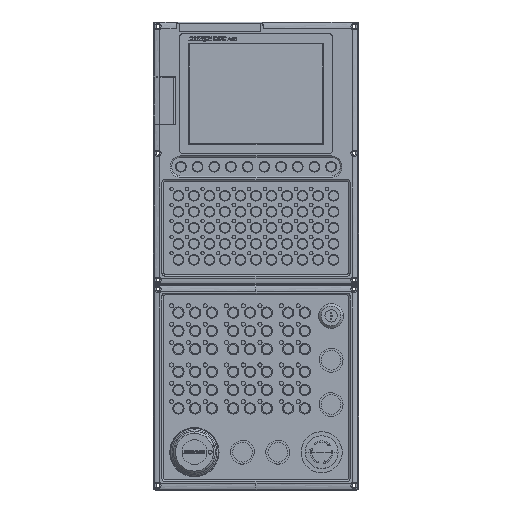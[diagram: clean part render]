
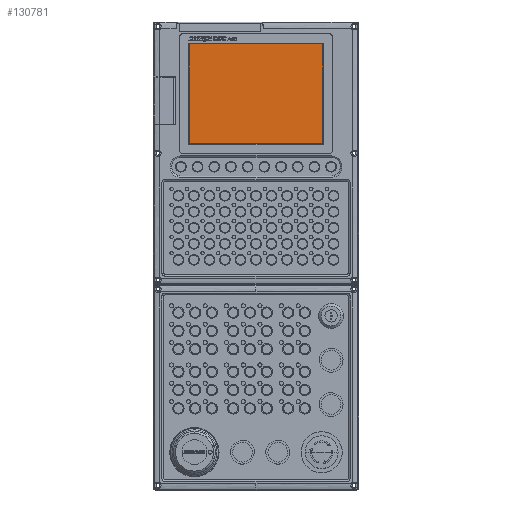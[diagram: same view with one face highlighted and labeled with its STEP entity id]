
A CAD part, top view. The second image highlights one B-rep face of the part: STEP entity #130781.
In plain terms, the highlighted planar face has unit normal (0, 0, 1).
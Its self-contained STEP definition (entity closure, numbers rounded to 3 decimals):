
#593 = EDGE_CURVE ( 'NONE', #22056, #26999, #51359, .T. ) ;
#6538 = EDGE_CURVE ( 'NONE', #63214, #28858, #146128, .T. ) ;
#12358 = EDGE_CURVE ( 'NONE', #26999, #63214, #20871, .T. ) ;
#15731 = CARTESIAN_POINT ( 'NONE',  ( -27.784, 225.685, -0.18 ) ) ;
#20871 = LINE ( 'NONE', #108075, #75224 ) ;
#22056 = VERTEX_POINT ( 'NONE', #149017 ) ;
#23064 = DIRECTION ( 'NONE',  ( 0., -1., 0. ) ) ;
#26324 = VECTOR ( 'NONE', #108483, 1000. ) ;
#26999 = VERTEX_POINT ( 'NONE', #34753 ) ;
#28858 = VERTEX_POINT ( 'NONE', #110728 ) ;
#34753 = CARTESIAN_POINT ( 'NONE',  ( 134.216, 96.685, -0.18 ) ) ;
#39665 = EDGE_LOOP ( 'NONE', ( #60123, #48043, #76685, #42091 ) ) ;
#40782 = VECTOR ( 'NONE', #124208, 1000. ) ;
#42091 = ORIENTED_EDGE ( 'NONE', *, *, #63543, .F. ) ;
#43044 = CARTESIAN_POINT ( 'NONE',  ( -35.284, 218.185, -0.18 ) ) ;
#48043 = ORIENTED_EDGE ( 'NONE', *, *, #12358, .F. ) ;
#51359 = LINE ( 'NONE', #104123, #109454 ) ;
#58259 = PLANE ( 'NONE',  #134092 ) ;
#60123 = ORIENTED_EDGE ( 'NONE', *, *, #6538, .F. ) ;
#61853 = DIRECTION ( 'NONE',  ( -1., 0., 0. ) ) ;
#63214 = VERTEX_POINT ( 'NONE', #69070 ) ;
#63543 = EDGE_CURVE ( 'NONE', #28858, #22056, #71651, .T. ) ;
#69070 = CARTESIAN_POINT ( 'NONE',  ( -27.784, 96.685, -0.18 ) ) ;
#69965 = DIRECTION ( 'NONE',  ( 1., 0., 0. ) ) ;
#71651 = LINE ( 'NONE', #43044, #40782 ) ;
#75224 = VECTOR ( 'NONE', #61853, 1000. ) ;
#76685 = ORIENTED_EDGE ( 'NONE', *, *, #593, .F. ) ;
#100292 = FACE_OUTER_BOUND ( 'NONE', #39665, .T. ) ;
#104123 = CARTESIAN_POINT ( 'NONE',  ( 134.216, 225.685, -0.18 ) ) ;
#108075 = CARTESIAN_POINT ( 'NONE',  ( -35.284, 96.685, -0.18 ) ) ;
#108483 = DIRECTION ( 'NONE',  ( 0., 1., 0. ) ) ;
#109454 = VECTOR ( 'NONE', #23064, 1000. ) ;
#110728 = CARTESIAN_POINT ( 'NONE',  ( -27.784, 218.185, -0.18 ) ) ;
#116107 = CARTESIAN_POINT ( 'NONE',  ( -35.284, 225.685, -0.18 ) ) ;
#124208 = DIRECTION ( 'NONE',  ( 1., 0., 0. ) ) ;
#130781 = ADVANCED_FACE ( 'NONE', ( #100292 ), #58259, .T. ) ;
#134092 = AXIS2_PLACEMENT_3D ( 'NONE', #116107, #139503, #69965 ) ;
#139503 = DIRECTION ( 'NONE',  ( 0., 0., 1. ) ) ;
#146128 = LINE ( 'NONE', #15731, #26324 ) ;
#149017 = CARTESIAN_POINT ( 'NONE',  ( 134.216, 218.185, -0.18 ) ) ;
